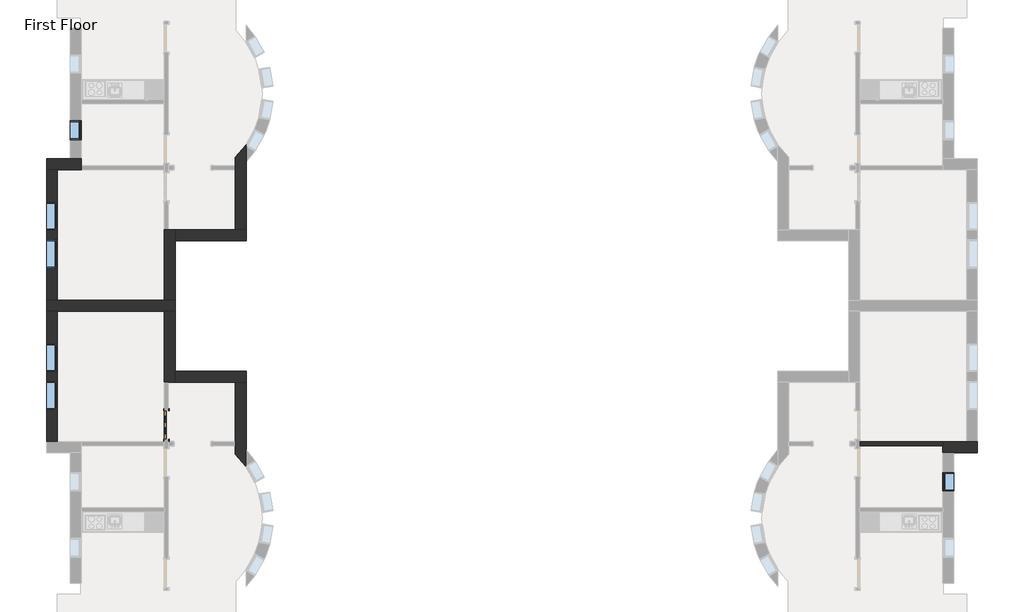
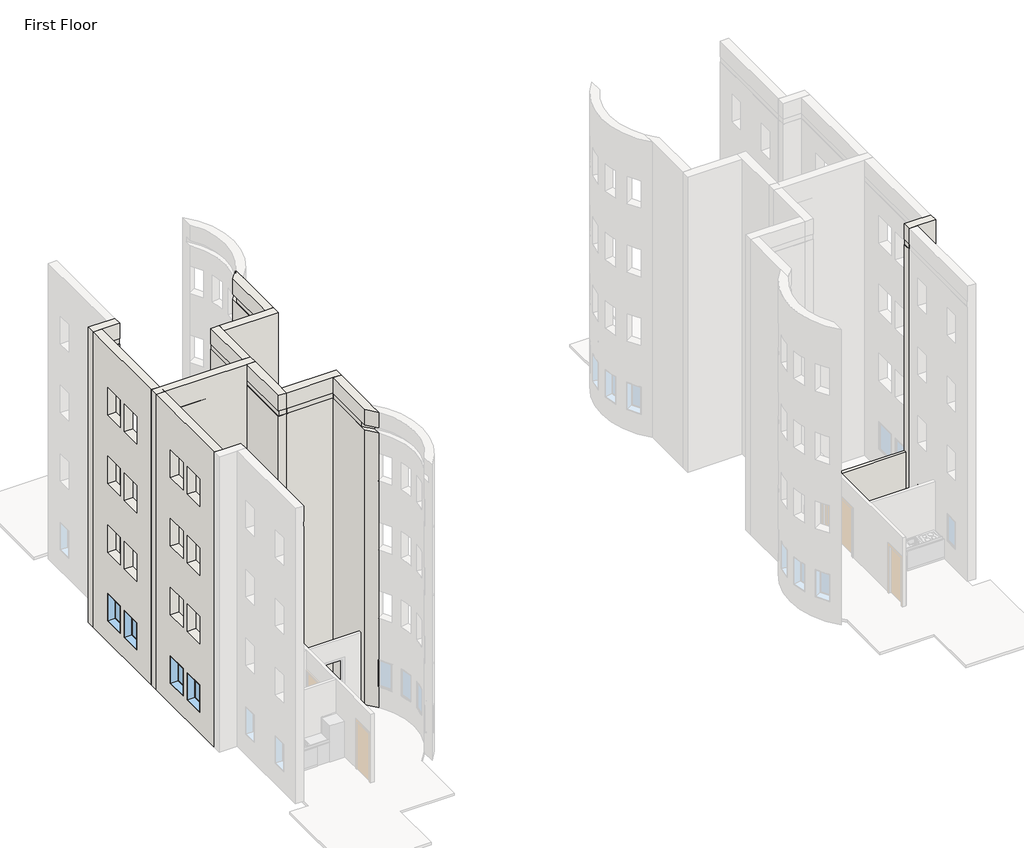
# One storey, part 8 of 23: 13 walls, 6 windows, 1 door.
"""IFC4 building model written with IfcOpenShell, lengths in millimetres."""

from ifc_helpers import new_model, si_unit, frame, origin, origin_with_axes, place, context, project, spatial, polyline, circle_curve, outline, extrude, faceted_brep, transform, mapped, element, save
from ifc_brep_helpers import plane_surface, revolved_surface, advanced_brep
from components import door_829da954, window_60baf983, window_15c49d37, window_0e2fc6ce

model = new_model("IFC4")

# Units and contexts
model_context = context("Model", 3, world=origin())
ifc_project = project(units=[si_unit("LENGTHUNIT", "METRE", prefix="MILLI")], contexts=[model_context])

# Site, building, storey
site = spatial("IfcSite", under=ifc_project)
building = spatial("IfcBuilding", under=site)
storey = spatial("IfcBuildingStorey", under=building, Name="First Floor", Elevation=0.0)

# Door
placement = place(None, origin())
door_shape = door_829da954(model_context)
element("IfcDoor", 1, ObjectType="Single-Decorative 2 : 36\" x 84\"", at=placement, inside=storey, context=model_context, shape_type="MappedRepresentation", body=[
    mapped(door_shape, transform((-26223.8839563, -15653.8558133, 0.0), x_axis=(0.0, -1.0, 0.0), y_axis=(1.0, 0.0, 0.0), z_axis=(0.0, 0.0, 1.0))),
])

# Walls
element("IfcWall", 2, ObjectType="Exterior - Brick on Mtl. Stud", at=placement, inside=storey, context=model_context, shape_type="Brep", body=[
    faceted_brep([(-30097.3839563, -11980.3808133, 0.0), (-29744.9589563, -11980.3808133, 0.0), (-26287.3839563, -11980.3808133, 0.0), (-25934.9589563, -11980.3808133, 0.0), (-25934.9589563, -11980.3808133, 13106.4), (-26287.3839563, -11980.3808133, 13106.4), (-29744.9589563, -11980.3808133, 13106.4), (-30097.3839563, -11980.3808133, 13106.4), (-25934.9589563, -11627.9558133, 0.0), (-26287.3839563, -11627.9558133, 0.0), (-29744.9589563, -11627.9558133, 0.0), (-30097.3839563, -11627.9558133, 0.0), (-30097.3839563, -11627.9558133, 13106.4), (-29744.9589563, -11627.9558133, 13106.4), (-26287.3839563, -11627.9558133, 13106.4), (-25934.9589563, -11627.9558133, 13106.4), (-29757.6589563, -11627.9558133, 12192.0), (-29744.9589563, -11627.9558133, 12192.0), (-26287.3839563, -11627.9558133, 12192.0), (-26274.6839563, -11627.9558133, 12192.0), (-26274.6839563, -11627.9558133, 12420.6), (-26287.3839563, -11627.9558133, 12420.6), (-29744.9589563, -11627.9558133, 12420.6), (-29757.6589563, -11627.9558133, 12420.6), (-29757.6589563, -11640.6558133, 12192.0), (-26274.6839563, -11640.6558133, 12192.0), (-26274.6839563, -11640.6558133, 12420.6), (-29757.6589563, -11640.6558133, 12420.6)], [[[0, 1, 2, 3, 4, 5, 6, 7]], [[8, 9, 10, 11, 12, 13, 14, 15], [16, 17, 18, 19, 20, 21, 22, 23]], [[3, 2, 1, 0, 11, 10, 9, 8]], [[7, 6, 5, 4, 15, 14, 13, 12]], [[4, 3, 8, 15]], [[0, 7, 12, 11]], [[24, 25, 19, 18, 17, 16]], [[26, 27, 23, 22, 21, 20]], [[25, 24, 27, 26]], [[27, 24, 16, 23]], [[25, 26, 20, 19]]]),
])
element("IfcWall", 3, ObjectType="Exterior - Brick on Mtl. Stud", at=placement, inside=storey, context=model_context, shape_type="Brep", body=[
    faceted_brep([(-25934.9589563, -11627.9558133, 0.0), (-25934.9589563, -9694.3808133, 0.0), (-25934.9589563, -9341.9558133, 0.0), (-25934.9589563, -9341.9558133, 12192.0), (-25934.9589563, -9354.6558133, 12192.0), (-25934.9589563, -9354.6558133, 12420.6), (-25934.9589563, -9341.9558133, 12420.6), (-25934.9589563, -9341.9558133, 13106.4), (-25934.9589563, -9694.3808133, 13106.4), (-25934.9589563, -11627.9558133, 13106.4), (-26287.3839563, -9341.9558133, 0.0), (-26287.3839563, -11627.9558133, 0.0), (-26287.3839563, -11627.9558133, 12192.0), (-26287.3839563, -9341.9558133, 12192.0), (-26287.3839563, -9341.9558133, 9144.0), (-26287.3839563, -9341.9558133, 6096.0), (-26287.3839563, -9341.9558133, 3048.0), (-26287.3839563, -11627.9558133, 13106.4), (-26287.3839563, -9341.9558133, 13106.4), (-26287.3839563, -9341.9558133, 12420.6), (-26287.3839563, -11627.9558133, 12420.6), (-26160.3839563, -9341.9558133, 0.0), (-26160.3839563, -9341.9558133, 12192.0), (-26274.6839563, -11627.9558133, 12420.6), (-26274.6839563, -11627.9558133, 12192.0), (-26274.6839563, -9354.6558133, 12192.0), (-26274.6839563, -9354.6558133, 12420.6)], [[[0, 1, 2, 3, 4, 5, 6, 7, 8, 9]], [[10, 11, 12, 13, 14, 15, 16]], [[17, 18, 19, 20]], [[2, 1, 0, 11, 10, 21]], [[9, 8, 7, 18, 17]], [[2, 21, 10, 16, 15, 14, 13, 22, 3]], [[18, 7, 6, 19]], [[0, 9, 17, 20, 23, 24, 12, 11]], [[24, 25, 4, 3, 22, 13, 12]], [[5, 26, 23, 20, 19, 6]], [[25, 26, 5, 4]], [[26, 25, 24, 23]]]),
])
element("IfcWall", 4, ObjectType="Exterior - Brick on Mtl. Stud", at=placement, inside=storey, context=model_context, shape_type="Brep", body=[
    faceted_brep([(-25934.9589563, -9694.3808133, 0.0), (-23648.9589563, -9694.3808133, 0.0), (-23648.9589563, -9694.3808133, 13106.4), (-25934.9589563, -9694.3808133, 13106.4), (-23648.9589563, -9341.9558133, 0.0), (-24001.3839563, -9341.9558133, 0.0), (-25934.9589563, -9341.9558133, 0.0), (-25934.9589563, -9341.9558133, 12192.0), (-24001.3839563, -9341.9558133, 12192.0), (-23988.6839563, -9341.9558133, 12192.0), (-23988.6839563, -9341.9558133, 12420.6), (-24001.3839563, -9341.9558133, 12420.6), (-25934.9589563, -9341.9558133, 12420.6), (-25934.9589563, -9341.9558133, 13106.4), (-24001.3839563, -9341.9558133, 13106.4), (-23648.9589563, -9341.9558133, 13106.4), (-25934.9589563, -9354.6558133, 12420.6), (-25934.9589563, -9354.6558133, 12192.0), (-23988.6839563, -9354.6558133, 12192.0), (-23988.6839563, -9354.6558133, 12420.6)], [[[0, 1, 2, 3]], [[4, 5, 6, 7, 8, 9, 10, 11, 12, 13, 14, 15]], [[1, 0, 6, 5, 4]], [[3, 2, 15, 14, 13]], [[2, 1, 4, 15]], [[0, 3, 13, 12, 16, 17, 7, 6]], [[17, 18, 9, 8, 7]], [[10, 19, 16, 12, 11]], [[18, 19, 10, 9]], [[19, 18, 17, 16]]]),
])
element("IfcWall", 5, ObjectType="Exterior - Brick on Mtl. Stud", at=placement, inside=storey, context=model_context, shape_type="AdvancedBrep", body=[
    advanced_brep(
    [(-23648.9589563, -9341.9558133, 0.0), (-23648.9589563, -7150.5535473, 0.0), (-23648.9589563, -6592.6589631, 0.0), (-23648.9589563, -6592.6589631, 914.4), (-23648.9589563, -6641.947211, 914.4), (-23648.9589563, -6641.947211, 2133.6), (-23648.9589563, -6592.6589631, 2133.6), (-23648.9589563, -6592.6589631, 3962.4), (-23648.9589563, -6641.947211, 3962.4), (-23648.9589563, -6641.947211, 5181.6), (-23648.9589563, -6592.6589631, 5181.6), (-23648.9589563, -6592.6589631, 7010.4), (-23648.9589563, -6641.947211, 7010.4), (-23648.9589563, -6641.947211, 8229.6), (-23648.9589563, -6592.6589631, 8229.6), (-23648.9589563, -6592.6589631, 10058.4), (-23648.9589563, -6641.947211, 10058.4), (-23648.9589563, -6641.947211, 11277.6), (-23648.9589563, -6592.6589631, 11277.6), (-23648.9589563, -6592.6589631, 12192.0), (-23648.9589563, -6901.1458841, 12192.0), (-23648.9589563, -6901.1458841, 12420.6), (-23648.9589563, -6592.6589631, 12420.6), (-23648.9589563, -6592.6589631, 13106.4), (-23648.9589563, -7150.5535473, 13106.4), (-23648.9589563, -9341.9558133, 13106.4), (-24001.3839563, -7006.552661, 0.0), (-24001.3839563, -7281.3808133, 0.0), (-24001.3839563, -7408.3808133, 0.0), (-24001.3839563, -9341.9558133, 0.0), (-24001.3839563, -9341.9558133, 12192.0), (-24001.3839563, -7408.3808133, 12192.0), (-24001.3839563, -7281.3808133, 12192.0), (-24001.3839563, -7006.552661, 12192.0), (-24001.3839563, -9341.9558133, 13106.4), (-24001.3839563, -7006.552661, 13106.4), (-24001.3839563, -7006.552661, 12420.6), (-24001.3839563, -9341.9558133, 12420.6), (-23654.515008, -6600.5704649, 11277.6), (-23654.515008, -6600.5704649, 10058.4), (-23654.515008, -6600.5704649, 8229.6), (-23654.515008, -6600.5704649, 7010.4), (-23654.515008, -6600.5704649, 5181.6), (-23654.515008, -6600.5704649, 3962.4), (-23654.515008, -6600.5704649, 2133.6), (-23654.515008, -6600.5704649, 914.4), (-23988.6839563, -9341.9558133, 12420.6), (-23988.6839563, -9341.9558133, 12192.0), (-23670.9721676, -6629.3664793, 2133.6), (-23670.9721676, -6629.3664793, 914.4), (-23670.9721676, -6629.3664793, 11277.6), (-23670.9721676, -6629.3664793, 10058.4), (-23670.9721676, -6629.3664793, 5181.6), (-23670.9721676, -6629.3664793, 3962.4), (-23670.9721676, -6629.3664793, 8229.6), (-23670.9721676, -6629.3664793, 7010.4), (-23988.6839563, -7249.4736866, 12192.0), (-23988.6839563, -7249.4736866, 12420.6)],
    [
        (0, 1),
        (1, 2),
        (2, 3),
        (3, 4),
        (4, 5),
        (5, 6),
        (6, 7),
        (7, 8),
        (8, 9),
        (9, 10),
        (10, 11),
        (11, 12),
        (12, 13),
        (13, 14),
        (14, 15),
        (15, 16),
        (16, 17),
        (17, 18),
        (18, 19),
        (19, 20),
        (20, 21),
        (21, 22),
        (22, 23),
        (23, 24),
        (24, 25),
        (25, 0),
        (26, 27),
        (27, 28),
        (28, 29),
        (29, 30),
        (30, 31),
        (31, 32),
        (32, 33),
        (33, 26),
        (34, 35),
        (35, 36),
        (36, 37),
        (37, 34),
        (0, 29),
        (26, 2, circle_curve(frame((-26001.8788413, -4946.1683133, 0.0), z_axis=(0.0, 0.0, 1.0), x_axis=(0.0, 1.0, 0.0)), 2871.7875)),
        (23, 35, circle_curve(frame((-26001.8788413, -4946.1683133, 13106.4), z_axis=(0.0, 0.0, -1.0), x_axis=(0.0, 1.0, 0.0)), 2871.7875)),
        (34, 25),
        (33, 19, circle_curve(frame((-26001.8788413, -4946.1683133, 12192.0), z_axis=(0.0, 0.0, 1.0), x_axis=(0.0, 1.0, 0.0)), 2871.7875)),
        (18, 38, circle_curve(frame((-26001.8788413, -4946.1683133, 11277.6), z_axis=(0.0, 0.0, -1.0), x_axis=(0.0, 1.0, 0.0)), 2871.7875)),
        (38, 39),
        (39, 15, circle_curve(frame((-26001.8788413, -4946.1683133, 10058.4), z_axis=(0.0, 0.0, 1.0), x_axis=(0.0, 1.0, 0.0)), 2871.7875)),
        (14, 40, circle_curve(frame((-26001.8788413, -4946.1683133, 8229.6), z_axis=(0.0, 0.0, -1.0), x_axis=(0.0, 1.0, 0.0)), 2871.7875)),
        (40, 41),
        (41, 11, circle_curve(frame((-26001.8788413, -4946.1683133, 7010.4), z_axis=(0.0, 0.0, 1.0), x_axis=(0.0, 1.0, 0.0)), 2871.7875)),
        (10, 42, circle_curve(frame((-26001.8788413, -4946.1683133, 5181.6), z_axis=(0.0, 0.0, -1.0), x_axis=(0.0, 1.0, 0.0)), 2871.7875)),
        (42, 43),
        (43, 7, circle_curve(frame((-26001.8788413, -4946.1683133, 3962.4), z_axis=(0.0, 0.0, 1.0), x_axis=(0.0, 1.0, 0.0)), 2871.7875)),
        (6, 44, circle_curve(frame((-26001.8788413, -4946.1683133, 2133.6), z_axis=(0.0, 0.0, -1.0), x_axis=(0.0, 1.0, 0.0)), 2871.7875)),
        (44, 45),
        (45, 3, circle_curve(frame((-26001.8788413, -4946.1683133, 914.4), z_axis=(0.0, 0.0, 1.0), x_axis=(0.0, 1.0, 0.0)), 2871.7875)),
        (22, 36, circle_curve(frame((-26001.8788413, -4946.1683133, 12420.6), z_axis=(0.0, 0.0, -1.0), x_axis=(0.0, 1.0, 0.0)), 2871.7875)),
        (37, 46),
        (46, 47),
        (47, 30),
        (48, 49),
        (49, 45),
        (44, 48),
        (49, 4),
        (48, 5),
        (50, 51),
        (51, 39),
        (38, 50),
        (51, 16),
        (50, 17),
        (52, 53),
        (53, 43),
        (42, 52),
        (53, 8),
        (52, 9),
        (54, 55),
        (55, 41),
        (40, 54),
        (55, 12),
        (54, 13),
        (47, 56),
        (56, 20, circle_curve(frame((-26001.8788413, -4946.1683133, 12192.0), z_axis=(0.0, 0.0, 1.0), x_axis=(0.0, -1.0, 0.0)), 3059.1125)),
        (21, 57, circle_curve(frame((-26001.8788413, -4946.1683133, 12420.6), z_axis=(0.0, 0.0, -1.0), x_axis=(0.0, -1.0, 0.0)), 3059.1125)),
        (57, 46),
        (56, 57),
    ],
    [
        plane_surface(frame((-23648.9589563, -9518.1683133, 0.0), z_axis=(1.0, 0.0, 0.0), x_axis=(0.0, 1.0, 0.0))),
        plane_surface(frame((-24001.3839563, -9518.1683133, 0.0), z_axis=(-1.0, 0.0, 0.0), x_axis=(0.0, -1.0, 0.0))),
        plane_surface(frame((-23648.9589563, -9518.1683133, 0.0), z_axis=(0.0, 0.0, -1.0), x_axis=(-1.0, 0.0, 0.0))),
        plane_surface(frame((-23648.9589563, -7079.7683133, 13106.4), z_axis=(0.0, 0.0, 1.0), x_axis=(-1.0, 0.0, 0.0))),
        revolved_surface(polyline([(-26001.8788413, -2074.3808132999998, 0.0), (-26001.8788413, -2074.3808132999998, 12192.0)]), (-26001.8788413, -4946.1683133, 0.0), (0.0, 0.0, -1.0)),
        revolved_surface(polyline([(-26001.8788413, -2074.3808132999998, 12420.6), (-26001.8788413, -2074.3808132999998, 13106.4)]), (-26001.8788413, -4946.1683133, 0.0), (0.0, 0.0, -1.0)),
        plane_surface(frame((-26111.1714563, -9341.9558133, 0.0), z_axis=(0.0, -1.0, 0.0), x_axis=(-1.0, 0.0, 0.0))),
        plane_surface(frame((-23368.4940834, -6100.1036253, 2133.6), z_axis=(0.8682133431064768, -0.4961910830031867, 0.0), x_axis=(0.0, 0.0, -1.0))),
        plane_surface(frame((-23368.4940834, -6100.1036253, 914.4), z_axis=(0.0, 0.0, 1.0), x_axis=(0.8682133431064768, -0.49619108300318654, 0.0))),
        plane_surface(frame((-23670.9721676, -6629.3664793, 914.4), z_axis=(0.49619108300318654, 0.8682133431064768, 0.0), x_axis=(0.8682133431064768, -0.49619108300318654, 0.0))),
        plane_surface(frame((-23670.9721676, -6629.3664793, 2133.6), z_axis=(0.0, 0.0, -1.0), x_axis=(0.8682133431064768, -0.49619108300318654, 0.0))),
        plane_surface(frame((-23368.4940834, -6100.1036253, 11277.6), z_axis=(0.8682133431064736, -0.4961910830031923, 0.0), x_axis=(0.0, 0.0, -1.0))),
        plane_surface(frame((-23368.4940834, -6100.1036253, 10058.4), z_axis=(0.0, 0.0, 1.0000000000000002), x_axis=(0.8682133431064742, -0.49619108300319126, 0.0))),
        plane_surface(frame((-23670.9721676, -6629.3664793, 10058.4), z_axis=(0.49619108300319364, 0.8682133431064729, 0.0), x_axis=(0.8682133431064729, -0.49619108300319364, 0.0))),
        plane_surface(frame((-23670.9721676, -6629.3664793, 11277.6), z_axis=(0.0, 0.0, -1.0), x_axis=(0.8682133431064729, -0.49619108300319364, 0.0))),
        plane_surface(frame((-23368.4940834, -6100.1036253, 5181.6), z_axis=(0.8682133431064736, -0.4961910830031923, 0.0), x_axis=(0.0, 0.0, -1.0))),
        plane_surface(frame((-23368.4940834, -6100.1036253, 3962.4), z_axis=(0.0, 0.0, 1.0000000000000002), x_axis=(0.8682133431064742, -0.49619108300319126, 0.0))),
        plane_surface(frame((-23670.9721676, -6629.3664793, 3962.4), z_axis=(0.49619108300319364, 0.8682133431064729, 0.0), x_axis=(0.8682133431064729, -0.49619108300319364, 0.0))),
        plane_surface(frame((-23670.9721676, -6629.3664793, 5181.6), z_axis=(0.0, 0.0, -1.0), x_axis=(0.8682133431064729, -0.49619108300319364, 0.0))),
        plane_surface(frame((-23368.4940834, -6100.1036253, 8229.6), z_axis=(0.8682133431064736, -0.4961910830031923, 0.0), x_axis=(0.0, 0.0, -1.0))),
        plane_surface(frame((-23368.4940834, -6100.1036253, 7010.4), z_axis=(0.0, 0.0, 1.0000000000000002), x_axis=(0.8682133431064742, -0.49619108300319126, 0.0))),
        plane_surface(frame((-23670.9721676, -6629.3664793, 7010.4), z_axis=(0.49619108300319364, 0.8682133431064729, 0.0), x_axis=(0.8682133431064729, -0.49619108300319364, 0.0))),
        plane_surface(frame((-23670.9721676, -6629.3664793, 8229.6), z_axis=(0.0, 0.0, -1.0), x_axis=(0.8682133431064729, -0.49619108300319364, 0.0))),
        plane_surface(frame((-29757.6589563, -11640.6558133, 12192.0), z_axis=(0.0, 0.0, 1.0), x_axis=(1.0, 0.0, 0.0))),
        plane_surface(frame((-29757.6589563, -11640.6558133, 12420.6), z_axis=(0.0, 0.0, -1.0), x_axis=(1.0, 0.0, 0.0))),
        revolved_surface(polyline([(-26001.8788413, -8005.2808133, 12420.6), (-26001.8788413, -8005.2808133, 12192.0)]), (-26001.8788413, -4946.1683133, 12192.0), (0.0, 0.0, 1.0)),
        plane_surface(frame((-23988.6839563, -9354.6558133, 12192.0), z_axis=(-1.0, 0.0, 0.0), x_axis=(0.0, 1.0, 0.0))),
    ],
    [
        (0, [[1, 2, 3, 4, 5, 6, 7, 8, 9, 10, 11, 12, 13, 14, 15, 16, 17, 18, 19, 20, 21, 22, 23, 24, 25, 26]]),
        (1, [[27, 28, 29, 30, 31, 32, 33, 34]]),
        (1, [[35, 36, 37, 38]]),
        (2, [[-2, -1, 39, -29, -28, -27, 40]]),
        (3, [[-25, -24, 41, -35, 42]]),
        (4, [[-40, -34, 43, -19, 44, 45, 46, -15, 47, 48, 49, -11, 50, 51, 52, -7, 53, 54, 55, -3]]),
        (5, [[-41, -23, 56, -36]]),
        (6, [[-26, -42, -38, 57, 58, 59, -30, -39]]),
        (7, [[60, 61, -54, 62]]),
        (8, [[63, -4, -55, -61]]),
        (9, [[-60, 64, -5, -63]]),
        (10, [[-64, -62, -53, -6]]),
        (11, [[65, 66, -45, 67]]),
        (12, [[68, -16, -46, -66]]),
        (13, [[-65, 69, -17, -68]]),
        (14, [[-69, -67, -44, -18]]),
        (15, [[70, 71, -51, 72]]),
        (16, [[73, -8, -52, -71]]),
        (17, [[-70, 74, -9, -73]]),
        (18, [[-74, -72, -50, -10]]),
        (19, [[75, 76, -48, 77]]),
        (20, [[78, -12, -49, -76]]),
        (21, [[-75, 79, -13, -78]]),
        (22, [[-79, -77, -47, -14]]),
        (23, [[80, 81, -20, -43, -33, -32, -31, -59]]),
        (24, [[82, 83, -57, -37, -56, -22]]),
        (25, [[84, -82, -21, -81]]),
        (26, [[-84, -80, -58, -83]]),
    ],
),
])
element("IfcWall", 6, ObjectType="Exterior - Brick on Mtl. Stud", at=placement, inside=storey, context=model_context, shape_type="Brep", body=[
    faceted_brep([(-29744.9589563, -11627.9558133, 0.0), (-29744.9589563, -7408.3808133, 0.0), (-29744.9589563, -7408.3808133, 12192.0), (-29744.9589563, -11627.9558133, 12192.0), (-29744.9589563, -9365.7683133, 7010.4), (-29744.9589563, -9365.7683133, 8229.6), (-29744.9589563, -8451.3683133, 8229.6), (-29744.9589563, -8451.3683133, 7010.4), (-29744.9589563, -10584.9683133, 7010.4), (-29744.9589563, -10584.9683133, 8229.6), (-29744.9589563, -9670.5683133, 8229.6), (-29744.9589563, -9670.5683133, 7010.4), (-29744.9589563, -9365.7683133, 3962.4), (-29744.9589563, -9365.7683133, 5181.6), (-29744.9589563, -8451.3683133, 5181.6), (-29744.9589563, -8451.3683133, 3962.4), (-29744.9589563, -10584.9683133, 3962.4), (-29744.9589563, -10584.9683133, 5181.6), (-29744.9589563, -9670.5683133, 5181.6), (-29744.9589563, -9670.5683133, 3962.4), (-29744.9589563, -9365.7683133, 10058.4), (-29744.9589563, -9365.7683133, 11277.6), (-29744.9589563, -8451.3683133, 11277.6), (-29744.9589563, -8451.3683133, 10058.4), (-29744.9589563, -10584.9683133, 10058.4), (-29744.9589563, -10584.9683133, 11277.6), (-29744.9589563, -9670.5683133, 11277.6), (-29744.9589563, -9670.5683133, 10058.4), (-29744.9589563, -9365.7683133, 914.4), (-29744.9589563, -9365.7683133, 2133.6), (-29744.9589563, -8451.3683133, 2133.6), (-29744.9589563, -8451.3683133, 914.4), (-29744.9589563, -10584.9683133, 914.4), (-29744.9589563, -10584.9683133, 2133.6), (-29744.9589563, -9670.5683133, 2133.6), (-29744.9589563, -9670.5683133, 914.4), (-29744.9589563, -7408.3808133, 13106.4), (-29744.9589563, -11627.9558133, 13106.4), (-29744.9589563, -11627.9558133, 12420.6), (-29744.9589563, -7408.3808133, 12420.6), (-30097.3839563, -7408.3808133, 0.0), (-30097.3839563, -11627.9558133, 0.0), (-30097.3839563, -11627.9558133, 13106.4), (-30097.3839563, -7408.3808133, 13106.4), (-30097.3839563, -9365.7683133, 8229.6), (-30097.3839563, -9365.7683133, 7010.4), (-30097.3839563, -8451.3683133, 7010.4), (-30097.3839563, -8451.3683133, 8229.6), (-30097.3839563, -10584.9683133, 8229.6), (-30097.3839563, -10584.9683133, 7010.4), (-30097.3839563, -9670.5683133, 7010.4), (-30097.3839563, -9670.5683133, 8229.6), (-30097.3839563, -9365.7683133, 5181.6), (-30097.3839563, -9365.7683133, 3962.4), (-30097.3839563, -8451.3683133, 3962.4), (-30097.3839563, -8451.3683133, 5181.6), (-30097.3839563, -10584.9683133, 5181.6), (-30097.3839563, -10584.9683133, 3962.4), (-30097.3839563, -9670.5683133, 3962.4), (-30097.3839563, -9670.5683133, 5181.6), (-30097.3839563, -9365.7683133, 11277.6), (-30097.3839563, -9365.7683133, 10058.4), (-30097.3839563, -8451.3683133, 10058.4), (-30097.3839563, -8451.3683133, 11277.6), (-30097.3839563, -10584.9683133, 11277.6), (-30097.3839563, -10584.9683133, 10058.4), (-30097.3839563, -9670.5683133, 10058.4), (-30097.3839563, -9670.5683133, 11277.6), (-30097.3839563, -9365.7683133, 2133.6), (-30097.3839563, -9365.7683133, 914.4), (-30097.3839563, -8451.3683133, 914.4), (-30097.3839563, -8451.3683133, 2133.6), (-30097.3839563, -10584.9683133, 2133.6), (-30097.3839563, -10584.9683133, 914.4), (-30097.3839563, -9670.5683133, 914.4), (-30097.3839563, -9670.5683133, 2133.6), (-29757.6589563, -11627.9558133, 12192.0), (-29757.6589563, -11627.9558133, 12420.6), (-29757.6589563, -7408.3808133, 12420.6), (-29757.6589563, -7408.3808133, 12192.0)], [[[0, 1, 2, 3], [4, 5, 6, 7], [8, 9, 10, 11], [12, 13, 14, 15], [16, 17, 18, 19], [20, 21, 22, 23], [24, 25, 26, 27], [28, 29, 30, 31], [32, 33, 34, 35]], [[36, 37, 38, 39]], [[40, 41, 42, 43], [44, 45, 46, 47], [48, 49, 50, 51], [52, 53, 54, 55], [56, 57, 58, 59], [60, 61, 62, 63], [64, 65, 66, 67], [68, 69, 70, 71], [72, 73, 74, 75]], [[1, 0, 41, 40]], [[37, 36, 43, 42]], [[37, 42, 41, 0, 3, 76, 77, 38]], [[1, 40, 43, 36, 39, 78, 79, 2]], [[45, 44, 5, 4]], [[46, 45, 4, 7]], [[47, 46, 7, 6]], [[44, 47, 6, 5]], [[49, 48, 9, 8]], [[50, 49, 8, 11]], [[51, 50, 11, 10]], [[48, 51, 10, 9]], [[53, 52, 13, 12]], [[54, 53, 12, 15]], [[55, 54, 15, 14]], [[52, 55, 14, 13]], [[57, 56, 17, 16]], [[58, 57, 16, 19]], [[59, 58, 19, 18]], [[56, 59, 18, 17]], [[61, 60, 21, 20]], [[62, 61, 20, 23]], [[63, 62, 23, 22]], [[60, 63, 22, 21]], [[65, 64, 25, 24]], [[66, 65, 24, 27]], [[67, 66, 27, 26]], [[64, 67, 26, 25]], [[69, 68, 29, 28]], [[70, 69, 28, 31]], [[71, 70, 31, 30]], [[68, 71, 30, 29]], [[73, 72, 33, 32]], [[74, 73, 32, 35]], [[75, 74, 35, 34]], [[72, 75, 34, 33]], [[79, 76, 3, 2]], [[77, 78, 39, 38]], [[76, 79, 78, 77]]]),
])
element("IfcWall", 7, ObjectType="Exterior - Brick on Mtl. Stud", at=placement, inside=storey, context=model_context, shape_type="Brep", body=[
    faceted_brep([(-30097.3839563, -7408.3808133, 0.0), (-29744.9589563, -7408.3808133, 0.0), (-28982.9589563, -7408.3808133, 0.0), (-28982.9589563, -7408.3808133, 3048.0), (-28982.9589563, -7408.3808133, 6096.0), (-28982.9589563, -7408.3808133, 9144.0), (-28982.9589563, -7408.3808133, 12192.0), (-29744.9589563, -7408.3808133, 12192.0), (-29757.6589563, -7408.3808133, 12192.0), (-29757.6589563, -7408.3808133, 12420.6), (-29744.9589563, -7408.3808133, 12420.6), (-28982.9589563, -7408.3808133, 12420.6), (-28982.9589563, -7408.3808133, 13106.4), (-29744.9589563, -7408.3808133, 13106.4), (-30097.3839563, -7408.3808133, 13106.4), (-28982.9589563, -7055.9558133, 0.0), (-29335.3839563, -7055.9558133, 0.0), (-30097.3839563, -7055.9558133, 0.0), (-30097.3839563, -7055.9558133, 13106.4), (-29335.3839563, -7055.9558133, 13106.4), (-28982.9589563, -7055.9558133, 13106.4), (-28982.9589563, -7055.9558133, 12420.6), (-28995.6589563, -7055.9558133, 12420.6), (-28995.6589563, -7055.9558133, 12192.0), (-28982.9589563, -7055.9558133, 12192.0), (-28982.9589563, -7281.3808133, 0.0), (-28982.9589563, -7281.3808133, 12192.0), (-28995.6589563, -7395.6808133, 12192.0), (-29757.6589563, -7395.6808133, 12192.0), (-29757.6589563, -7395.6808133, 12420.6), (-28995.6589563, -7395.6808133, 12420.6)], [[[0, 1, 2, 3, 4, 5, 6, 7, 8, 9, 10, 11, 12, 13, 14]], [[15, 16, 17, 18, 19, 20, 21, 22, 23, 24]], [[2, 1, 0, 17, 16, 15, 25]], [[14, 13, 12, 20, 19, 18]], [[0, 14, 18, 17]], [[2, 25, 15, 24, 26, 6, 5, 4, 3]], [[20, 12, 11, 21]], [[27, 28, 8, 7, 6, 26, 24, 23]], [[29, 30, 22, 21, 11, 10, 9]], [[28, 29, 9, 8]], [[28, 27, 30, 29]], [[30, 27, 23, 22]]]),
])
element("IfcWall", 8, ObjectType="Exterior - Brick on Mtl. Stud", at=placement, inside=storey, context=model_context, shape_type="Brep", body=[
    faceted_brep([(-26.9589563, -16199.9558133, 0.0), (-379.3839563, -16199.9558133, 0.0), (-1141.3839563, -16199.9558133, 0.0), (-1141.3839563, -16199.9558133, 3048.0), (-1141.3839563, -16199.9558133, 6096.0), (-1141.3839563, -16199.9558133, 9144.0), (-1141.3839563, -16199.9558133, 12192.0), (-379.3839563, -16199.9558133, 12192.0), (-366.6839563, -16199.9558133, 12192.0), (-366.6839563, -16199.9558133, 12420.6), (-379.3839563, -16199.9558133, 12420.6), (-1141.3839563, -16199.9558133, 12420.6), (-1141.3839563, -16199.9558133, 13106.4), (-379.3839563, -16199.9558133, 13106.4), (-26.9589563, -16199.9558133, 13106.4), (-1141.3839563, -16552.3808133, 0.0), (-788.9589563, -16552.3808133, 0.0), (-26.9589563, -16552.3808133, 0.0), (-26.9589563, -16552.3808133, 13106.4), (-788.9589563, -16552.3808133, 13106.4), (-1141.3839563, -16552.3808133, 13106.4), (-1141.3839563, -16552.3808133, 12420.6), (-1128.6839563, -16552.3808133, 12420.6), (-1128.6839563, -16552.3808133, 12192.0), (-1141.3839563, -16552.3808133, 12192.0), (-1141.3839563, -16326.9558133, 0.0), (-1141.3839563, -16326.9558133, 12192.0), (-1128.6839563, -16212.6558133, 12192.0), (-366.6839563, -16212.6558133, 12192.0), (-366.6839563, -16212.6558133, 12420.6), (-1128.6839563, -16212.6558133, 12420.6)], [[[0, 1, 2, 3, 4, 5, 6, 7, 8, 9, 10, 11, 12, 13, 14]], [[15, 16, 17, 18, 19, 20, 21, 22, 23, 24]], [[2, 1, 0, 17, 16, 15, 25]], [[14, 13, 12, 20, 19, 18]], [[0, 14, 18, 17]], [[2, 25, 15, 24, 26, 6, 5, 4, 3]], [[20, 12, 11, 21]], [[27, 28, 8, 7, 6, 26, 24, 23]], [[29, 30, 22, 21, 11, 10, 9]], [[28, 29, 9, 8]], [[28, 27, 30, 29]], [[30, 27, 23, 22]]]),
])
element("IfcWall", 9, ObjectType="Exterior - Brick on Mtl. Stud", at=placement, inside=storey, context=model_context, shape_type="SweptSolid", body=[
    extrude(outline(polyline([(-11980.3808133, 13106.4), (-11627.9558133, 13106.4), (-11627.9558133, 0.0), (-11980.3808133, 0.0), (-11980.3808133, 12192.0), (-11967.6808133, 12192.0), (-11967.6808133, 12420.6), (-11980.3808133, 12420.6), (-11980.3808133, 13106.4)])), frame((-29744.9589563, 0.0, 0.0), z_axis=(1.0, 0.0, 0.0), x_axis=(0.0, 1.0, 0.0)), (0.0, 0.0, 1.0), 3457.575),
])
element("IfcWall", 10, ObjectType="Exterior - Brick on Mtl. Stud", at=placement, inside=storey, context=model_context, shape_type="Brep", body=[
    faceted_brep([(-26287.3839563, -11980.3808133, 0.0), (-26287.3839563, -14266.3808133, 0.0), (-26287.3839563, -14266.3808133, 3048.0), (-26287.3839563, -14266.3808133, 6096.0), (-26287.3839563, -14266.3808133, 9144.0), (-26287.3839563, -14266.3808133, 12192.0), (-26287.3839563, -11980.3808133, 12192.0), (-26287.3839563, -14266.3808133, 13106.4), (-26287.3839563, -11980.3808133, 13106.4), (-26287.3839563, -11980.3808133, 12420.6), (-26287.3839563, -14266.3808133, 12420.6), (-25934.9589563, -14266.3808133, 0.0), (-25934.9589563, -13913.9558133, 0.0), (-25934.9589563, -11980.3808133, 0.0), (-25934.9589563, -11980.3808133, 13106.4), (-25934.9589563, -13913.9558133, 13106.4), (-25934.9589563, -14266.3808133, 13106.4), (-25934.9589563, -14266.3808133, 12420.6), (-25934.9589563, -14253.6808133, 12420.6), (-25934.9589563, -14253.6808133, 12192.0), (-25934.9589563, -14266.3808133, 12192.0), (-26160.3839563, -14266.3808133, 0.0), (-26160.3839563, -14266.3808133, 12192.0), (-26274.6839563, -11980.3808133, 12192.0), (-26274.6839563, -11980.3808133, 12420.6), (-26274.6839563, -14253.6808133, 12192.0), (-26274.6839563, -14253.6808133, 12420.6)], [[[0, 1, 2, 3, 4, 5, 6]], [[7, 8, 9, 10]], [[11, 12, 13, 14, 15, 16, 17, 18, 19, 20]], [[1, 0, 13, 12, 11, 21]], [[8, 7, 16, 15, 14]], [[1, 21, 11, 20, 22, 5, 4, 3, 2]], [[16, 7, 10, 17]], [[8, 14, 13, 0, 6, 23, 24, 9]], [[19, 25, 23, 6, 5, 22, 20]], [[24, 26, 18, 17, 10, 9]], [[26, 25, 19, 18]], [[25, 26, 24, 23]]]),
])
element("IfcWall", 11, ObjectType="Exterior - Brick on Mtl. Stud", at=placement, inside=storey, context=model_context, shape_type="Brep", body=[
    faceted_brep([(-25934.9589563, -14266.3808133, 0.0), (-24001.3839563, -14266.3808133, 0.0), (-23648.9589563, -14266.3808133, 0.0), (-23648.9589563, -14266.3808133, 13106.4), (-24001.3839563, -14266.3808133, 13106.4), (-25934.9589563, -14266.3808133, 13106.4), (-25934.9589563, -14266.3808133, 12420.6), (-24001.3839563, -14266.3808133, 12420.6), (-23988.6839563, -14266.3808133, 12420.6), (-23988.6839563, -14266.3808133, 12192.0), (-24001.3839563, -14266.3808133, 12192.0), (-25934.9589563, -14266.3808133, 12192.0), (-23648.9589563, -13913.9558133, 0.0), (-25934.9589563, -13913.9558133, 0.0), (-25934.9589563, -13913.9558133, 13106.4), (-23648.9589563, -13913.9558133, 13106.4), (-25934.9589563, -14253.6808133, 12192.0), (-25934.9589563, -14253.6808133, 12420.6), (-23988.6839563, -14253.6808133, 12192.0), (-23988.6839563, -14253.6808133, 12420.6)], [[[0, 1, 2, 3, 4, 5, 6, 7, 8, 9, 10, 11]], [[12, 13, 14, 15]], [[2, 1, 0, 13, 12]], [[5, 4, 3, 15, 14]], [[3, 2, 12, 15]], [[5, 14, 13, 0, 11, 16, 17, 6]], [[9, 18, 16, 11, 10]], [[17, 19, 8, 7, 6]], [[19, 18, 9, 8]], [[18, 19, 17, 16]]]),
])
element("IfcWall", 12, ObjectType="Exterior - Brick on Mtl. Stud", at=placement, inside=storey, context=model_context, shape_type="AdvancedBrep", body=[
    advanced_brep(
    [(-24001.3839563, -14266.3808133, 0.0), (-24001.3839563, -16199.9558133, 0.0), (-24001.3839563, -16326.9558133, 0.0), (-24001.3839563, -16601.7839656, 0.0), (-24001.3839563, -16601.7839656, 12192.0), (-24001.3839563, -16326.9558133, 12192.0), (-24001.3839563, -16199.9558133, 12192.0), (-24001.3839563, -14266.3808133, 12192.0), (-24001.3839563, -16601.7839656, 13106.4), (-24001.3839563, -14266.3808133, 13106.4), (-24001.3839563, -14266.3808133, 12420.6), (-24001.3839563, -16601.7839656, 12420.6), (-23648.9589563, -17015.6776635, 0.0), (-23648.9589563, -16457.7830793, 0.0), (-23648.9589563, -14266.3808133, 0.0), (-23648.9589563, -14266.3808133, 13106.4), (-23648.9589563, -16457.7830793, 13106.4), (-23648.9589563, -17015.6776635, 13106.4), (-23648.9589563, -17015.6776635, 12420.6), (-23648.9589563, -16707.1907425, 12420.6), (-23648.9589563, -16707.1907425, 12192.0), (-23648.9589563, -17015.6776635, 12192.0), (-23648.9589563, -17015.6776635, 11277.6), (-23648.9589563, -16966.3894156, 11277.6), (-23648.9589563, -16966.3894156, 10058.4), (-23648.9589563, -17015.6776635, 10058.4), (-23648.9589563, -17015.6776635, 8229.6), (-23648.9589563, -16966.3894156, 8229.6), (-23648.9589563, -16966.3894156, 7010.4), (-23648.9589563, -17015.6776635, 7010.4), (-23648.9589563, -17015.6776635, 5181.6), (-23648.9589563, -16966.3894156, 5181.6), (-23648.9589563, -16966.3894156, 3962.4), (-23648.9589563, -17015.6776635, 3962.4), (-23648.9589563, -17015.6776635, 2133.6), (-23648.9589563, -16966.3894156, 2133.6), (-23648.9589563, -16966.3894156, 914.4), (-23648.9589563, -17015.6776635, 914.4), (-23654.428547, -17007.8888446, 914.4), (-23654.428547, -17007.8888446, 2133.6), (-23654.428547, -17007.8888446, 3962.4), (-23654.428547, -17007.8888446, 5181.6), (-23654.428547, -17007.8888446, 7010.4), (-23654.428547, -17007.8888446, 8229.6), (-23654.428547, -17007.8888446, 10058.4), (-23654.428547, -17007.8888446, 11277.6), (-23988.6839563, -14266.3808133, 12192.0), (-23988.6839563, -14266.3808133, 12420.6), (-23670.9598455, -16978.9631051, 914.4), (-23670.9598455, -16978.9631051, 2133.6), (-23670.9598455, -16978.9631051, 10058.4), (-23670.9598455, -16978.9631051, 11277.6), (-23670.9598455, -16978.9631051, 3962.4), (-23670.9598455, -16978.9631051, 5181.6), (-23670.9598455, -16978.9631051, 7010.4), (-23670.9598455, -16978.9631051, 8229.6), (-23988.6839563, -16358.86294, 12192.0), (-23988.6839563, -16358.86294, 12420.6)],
    [
        (0, 1),
        (1, 2),
        (2, 3),
        (3, 4),
        (4, 5),
        (5, 6),
        (6, 7),
        (7, 0),
        (8, 9),
        (9, 10),
        (10, 11),
        (11, 8),
        (12, 13),
        (13, 14),
        (14, 15),
        (15, 16),
        (16, 17),
        (17, 18),
        (18, 19),
        (19, 20),
        (20, 21),
        (21, 22),
        (22, 23),
        (23, 24),
        (24, 25),
        (25, 26),
        (26, 27),
        (27, 28),
        (28, 29),
        (29, 30),
        (30, 31),
        (31, 32),
        (32, 33),
        (33, 34),
        (34, 35),
        (35, 36),
        (36, 37),
        (37, 12),
        (0, 14),
        (12, 3, circle_curve(frame((-26001.8788413, -18662.1683133, 0.0), z_axis=(0.0, 0.0, 1.0), x_axis=(0.0, -1.0, 0.0)), 2871.7875)),
        (8, 17, circle_curve(frame((-26001.8788413, -18662.1683133, 13106.4), z_axis=(0.0, 0.0, -1.0), x_axis=(0.0, -1.0, 0.0)), 2871.7875)),
        (15, 9),
        (37, 38, circle_curve(frame((-26001.8788413, -18662.1683133, 914.4), z_axis=(0.0, 0.0, 1.0), x_axis=(0.0, -1.0, 0.0)), 2871.7875)),
        (38, 39),
        (39, 34, circle_curve(frame((-26001.8788413, -18662.1683133, 2133.6), z_axis=(0.0, 0.0, -1.0), x_axis=(0.0, -1.0, 0.0)), 2871.7875)),
        (33, 40, circle_curve(frame((-26001.8788413, -18662.1683133, 3962.4), z_axis=(0.0, 0.0, 1.0), x_axis=(0.0, -1.0, 0.0)), 2871.7875)),
        (40, 41),
        (41, 30, circle_curve(frame((-26001.8788413, -18662.1683133, 5181.6), z_axis=(0.0, 0.0, -1.0), x_axis=(0.0, -1.0, 0.0)), 2871.7875)),
        (29, 42, circle_curve(frame((-26001.8788413, -18662.1683133, 7010.4), z_axis=(0.0, 0.0, 1.0), x_axis=(0.0, -1.0, 0.0)), 2871.7875)),
        (42, 43),
        (43, 26, circle_curve(frame((-26001.8788413, -18662.1683133, 8229.6), z_axis=(0.0, 0.0, -1.0), x_axis=(0.0, -1.0, 0.0)), 2871.7875)),
        (25, 44, circle_curve(frame((-26001.8788413, -18662.1683133, 10058.4), z_axis=(0.0, 0.0, 1.0), x_axis=(0.0, -1.0, 0.0)), 2871.7875)),
        (44, 45),
        (45, 22, circle_curve(frame((-26001.8788413, -18662.1683133, 11277.6), z_axis=(0.0, 0.0, -1.0), x_axis=(0.0, -1.0, 0.0)), 2871.7875)),
        (21, 4, circle_curve(frame((-26001.8788413, -18662.1683133, 12192.0), z_axis=(0.0, 0.0, 1.0), x_axis=(0.0, -1.0, 0.0)), 2871.7875)),
        (11, 18, circle_curve(frame((-26001.8788413, -18662.1683133, 12420.6), z_axis=(0.0, 0.0, -1.0), x_axis=(0.0, -1.0, 0.0)), 2871.7875)),
        (7, 46),
        (46, 47),
        (47, 10),
        (48, 49),
        (49, 39),
        (38, 48),
        (36, 48),
        (35, 49),
        (50, 51),
        (51, 45),
        (44, 50),
        (24, 50),
        (23, 51),
        (52, 53),
        (53, 41),
        (40, 52),
        (32, 52),
        (31, 53),
        (54, 55),
        (55, 43),
        (42, 54),
        (28, 54),
        (27, 55),
        (20, 56, circle_curve(frame((-26001.8788413, -18662.1683133, 12192.0), z_axis=(0.0, 0.0, 1.0), x_axis=(0.0, -1.0, 0.0)), 3059.1125)),
        (56, 46),
        (47, 57),
        (57, 19, circle_curve(frame((-26001.8788413, -18662.1683133, 12420.6), z_axis=(0.0, 0.0, -1.0), x_axis=(0.0, -1.0, 0.0)), 3059.1125)),
        (57, 56),
    ],
    [
        plane_surface(frame((-24001.3839563, -14090.1683133, 0.0), z_axis=(-1.0, 0.0, 0.0), x_axis=(0.0, -1.0, 0.0))),
        plane_surface(frame((-23648.9589563, -14090.1683133, 0.0), z_axis=(1.0, 0.0, 0.0), x_axis=(0.0, 1.0, 0.0))),
        plane_surface(frame((-24001.3839563, -14090.1683133, 0.0), z_axis=(0.0, 0.0, -1.0), x_axis=(1.0, 0.0, 0.0))),
        plane_surface(frame((-24001.3839563, -16528.5683133, 13106.4), z_axis=(0.0, 0.0, 1.0), x_axis=(1.0, 0.0, 0.0))),
        revolved_surface(polyline([(-26001.8788413, -21533.9558133, 0.0), (-26001.8788413, -21533.9558133, 12192.0)]), (-26001.8788413, -18662.1683133, 0.0), (0.0, 0.0, -1.0)),
        revolved_surface(polyline([(-26001.8788413, -21533.9558133, 12420.6), (-26001.8788413, -21533.9558133, 13106.4)]), (-26001.8788413, -18662.1683133, 0.0), (0.0, 0.0, -1.0)),
        plane_surface(frame((-26111.1714563, -14266.3808133, 0.0), z_axis=(0.0, 1.0, 0.0), x_axis=(1.0, 0.0, 0.0))),
        plane_surface(frame((-23368.4817613, -17508.2259591, 2133.6), z_axis=(0.8682133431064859, 0.4961910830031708, 0.0), x_axis=(0.0, 0.0, 1.0))),
        plane_surface(frame((-23063.8719855, -17334.1389611, 914.4), z_axis=(0.0, 0.0, 1.0), x_axis=(-0.868213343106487, -0.4961910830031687, 0.0))),
        plane_surface(frame((-23366.3500697, -16804.8761071, 914.4), z_axis=(0.4961910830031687, -0.868213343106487, 0.0), x_axis=(-0.868213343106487, -0.4961910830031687, 0.0))),
        plane_surface(frame((-23366.3500697, -16804.8761071, 2133.6), z_axis=(0.0, 0.0, -1.0), x_axis=(-0.868213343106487, -0.4961910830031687, 0.0))),
        plane_surface(frame((-23368.4817613, -17508.2259591, 11277.6), z_axis=(0.8682133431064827, 0.4961910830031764, 0.0), x_axis=(0.0, 0.0, 1.0))),
        plane_surface(frame((-23063.8719855, -17334.1389611, 10058.4), z_axis=(0.0, 0.0, 1.0), x_axis=(-0.8682133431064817, -0.496191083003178, 0.0))),
        plane_surface(frame((-23366.3500697, -16804.8761071, 10058.4), z_axis=(0.4961910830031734, -0.8682133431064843, 0.0), x_axis=(-0.8682133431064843, -0.4961910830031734, 0.0))),
        plane_surface(frame((-23366.3500697, -16804.8761071, 11277.6), z_axis=(0.0, 0.0, -1.0), x_axis=(-0.8682133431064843, -0.4961910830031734, 0.0))),
        plane_surface(frame((-23368.4817613, -17508.2259591, 5181.6), z_axis=(0.8682133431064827, 0.4961910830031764, 0.0), x_axis=(0.0, 0.0, 1.0))),
        plane_surface(frame((-23063.8719855, -17334.1389611, 3962.4), z_axis=(0.0, 0.0, 1.0), x_axis=(-0.8682133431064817, -0.496191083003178, 0.0))),
        plane_surface(frame((-23366.3500697, -16804.8761071, 3962.4), z_axis=(0.4961910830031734, -0.8682133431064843, 0.0), x_axis=(-0.8682133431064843, -0.4961910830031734, 0.0))),
        plane_surface(frame((-23366.3500697, -16804.8761071, 5181.6), z_axis=(0.0, 0.0, -1.0), x_axis=(-0.8682133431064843, -0.4961910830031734, 0.0))),
        plane_surface(frame((-23368.4817613, -17508.2259591, 8229.6), z_axis=(0.8682133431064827, 0.4961910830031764, 0.0), x_axis=(0.0, 0.0, 1.0))),
        plane_surface(frame((-23063.8719855, -17334.1389611, 7010.4), z_axis=(0.0, 0.0, 1.0), x_axis=(-0.8682133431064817, -0.496191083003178, 0.0))),
        plane_surface(frame((-23366.3500697, -16804.8761071, 7010.4), z_axis=(0.4961910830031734, -0.8682133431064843, 0.0), x_axis=(-0.8682133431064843, -0.4961910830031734, 0.0))),
        plane_surface(frame((-23366.3500697, -16804.8761071, 8229.6), z_axis=(0.0, 0.0, -1.0), x_axis=(-0.8682133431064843, -0.4961910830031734, 0.0))),
        plane_surface(frame((-29757.6589563, -11967.6808133, 12192.0), z_axis=(0.0, 0.0, 1.0), x_axis=(1.0, 0.0, 0.0))),
        plane_surface(frame((-29757.6589563, -11967.6808133, 12420.6), z_axis=(0.0, 0.0, -1.0), x_axis=(1.0, 0.0, 0.0))),
        revolved_surface(polyline([(-26001.8788413, -21721.2808133, 12420.6), (-26001.8788413, -21721.2808133, 12192.0)]), (-26001.8788413, -18662.1683133, 12192.0), (0.0, 0.0, 1.0)),
        plane_surface(frame((-23988.6839563, -16358.86294, 12192.0), z_axis=(-1.0, 0.0, 0.0), x_axis=(0.0, 1.0, 0.0))),
    ],
    [
        (0, [[1, 2, 3, 4, 5, 6, 7, 8]]),
        (0, [[9, 10, 11, 12]]),
        (1, [[13, 14, 15, 16, 17, 18, 19, 20, 21, 22, 23, 24, 25, 26, 27, 28, 29, 30, 31, 32, 33, 34, 35, 36, 37, 38]]),
        (2, [[-3, -2, -1, 39, -14, -13, 40]]),
        (3, [[-9, 41, -17, -16, 42]]),
        (4, [[-40, -38, 43, 44, 45, -34, 46, 47, 48, -30, 49, 50, 51, -26, 52, 53, 54, -22, 55, -4]]),
        (5, [[-41, -12, 56, -18]]),
        (6, [[-42, -15, -39, -8, 57, 58, 59, -10]]),
        (7, [[60, 61, -44, 62]]),
        (8, [[63, -62, -43, -37]]),
        (9, [[-60, -63, -36, 64]]),
        (10, [[-64, -35, -45, -61]]),
        (11, [[65, 66, -53, 67]]),
        (12, [[68, -67, -52, -25]]),
        (13, [[-65, -68, -24, 69]]),
        (14, [[-69, -23, -54, -66]]),
        (15, [[70, 71, -47, 72]]),
        (16, [[73, -72, -46, -33]]),
        (17, [[-70, -73, -32, 74]]),
        (18, [[-74, -31, -48, -71]]),
        (19, [[75, 76, -50, 77]]),
        (20, [[78, -77, -49, -29]]),
        (21, [[-75, -78, -28, 79]]),
        (22, [[-79, -27, -51, -76]]),
        (23, [[80, 81, -57, -7, -6, -5, -55, -21]]),
        (24, [[82, 83, -19, -56, -11, -59]]),
        (25, [[84, -80, -20, -83]]),
        (26, [[-84, -82, -58, -81]]),
    ],
),
])
element("IfcWall", 13, ObjectType="Exterior - Brick on Mtl. Stud", at=placement, inside=storey, context=model_context, shape_type="Brep", body=[
    faceted_brep([(-30097.3839563, -11980.3808133, 0.0), (-30097.3839563, -16199.9558133, 0.0), (-30097.3839563, -16199.9558133, 13106.4), (-30097.3839563, -11980.3808133, 13106.4), (-30097.3839563, -13023.3683133, 914.4), (-30097.3839563, -13023.3683133, 2133.6), (-30097.3839563, -13937.7683133, 2133.6), (-30097.3839563, -13937.7683133, 914.4), (-30097.3839563, -14242.5683133, 914.4), (-30097.3839563, -14242.5683133, 2133.6), (-30097.3839563, -15156.9683133, 2133.6), (-30097.3839563, -15156.9683133, 914.4), (-30097.3839563, -13023.3683133, 10058.4), (-30097.3839563, -13023.3683133, 11277.6), (-30097.3839563, -13937.7683133, 11277.6), (-30097.3839563, -13937.7683133, 10058.4), (-30097.3839563, -14242.5683133, 10058.4), (-30097.3839563, -14242.5683133, 11277.6), (-30097.3839563, -15156.9683133, 11277.6), (-30097.3839563, -15156.9683133, 10058.4), (-30097.3839563, -13023.3683133, 3962.4), (-30097.3839563, -13023.3683133, 5181.6), (-30097.3839563, -13937.7683133, 5181.6), (-30097.3839563, -13937.7683133, 3962.4), (-30097.3839563, -14242.5683133, 3962.4), (-30097.3839563, -14242.5683133, 5181.6), (-30097.3839563, -15156.9683133, 5181.6), (-30097.3839563, -15156.9683133, 3962.4), (-30097.3839563, -13023.3683133, 7010.4), (-30097.3839563, -13023.3683133, 8229.6), (-30097.3839563, -13937.7683133, 8229.6), (-30097.3839563, -13937.7683133, 7010.4), (-30097.3839563, -14242.5683133, 7010.4), (-30097.3839563, -14242.5683133, 8229.6), (-30097.3839563, -15156.9683133, 8229.6), (-30097.3839563, -15156.9683133, 7010.4), (-29744.9589563, -16199.9558133, 0.0), (-29744.9589563, -11980.3808133, 0.0), (-29744.9589563, -11980.3808133, 12192.0), (-29744.9589563, -16199.9558133, 12192.0), (-29744.9589563, -13023.3683133, 2133.6), (-29744.9589563, -13023.3683133, 914.4), (-29744.9589563, -13937.7683133, 914.4), (-29744.9589563, -13937.7683133, 2133.6), (-29744.9589563, -14242.5683133, 2133.6), (-29744.9589563, -14242.5683133, 914.4), (-29744.9589563, -15156.9683133, 914.4), (-29744.9589563, -15156.9683133, 2133.6), (-29744.9589563, -13023.3683133, 11277.6), (-29744.9589563, -13023.3683133, 10058.4), (-29744.9589563, -13937.7683133, 10058.4), (-29744.9589563, -13937.7683133, 11277.6), (-29744.9589563, -14242.5683133, 11277.6), (-29744.9589563, -14242.5683133, 10058.4), (-29744.9589563, -15156.9683133, 10058.4), (-29744.9589563, -15156.9683133, 11277.6), (-29744.9589563, -13023.3683133, 5181.6), (-29744.9589563, -13023.3683133, 3962.4), (-29744.9589563, -13937.7683133, 3962.4), (-29744.9589563, -13937.7683133, 5181.6), (-29744.9589563, -14242.5683133, 5181.6), (-29744.9589563, -14242.5683133, 3962.4), (-29744.9589563, -15156.9683133, 3962.4), (-29744.9589563, -15156.9683133, 5181.6), (-29744.9589563, -13023.3683133, 8229.6), (-29744.9589563, -13023.3683133, 7010.4), (-29744.9589563, -13937.7683133, 7010.4), (-29744.9589563, -13937.7683133, 8229.6), (-29744.9589563, -14242.5683133, 8229.6), (-29744.9589563, -14242.5683133, 7010.4), (-29744.9589563, -15156.9683133, 7010.4), (-29744.9589563, -15156.9683133, 8229.6), (-29744.9589563, -11980.3808133, 13106.4), (-29744.9589563, -16199.9558133, 13106.4), (-29744.9589563, -16199.9558133, 12420.6), (-29744.9589563, -11980.3808133, 12420.6), (-29757.6589563, -16199.9558133, 12192.0), (-29757.6589563, -16199.9558133, 12420.6), (-29757.6589563, -11980.3808133, 12420.6), (-29757.6589563, -11980.3808133, 12192.0)], [[[0, 1, 2, 3], [4, 5, 6, 7], [8, 9, 10, 11], [12, 13, 14, 15], [16, 17, 18, 19], [20, 21, 22, 23], [24, 25, 26, 27], [28, 29, 30, 31], [32, 33, 34, 35]], [[36, 37, 38, 39], [40, 41, 42, 43], [44, 45, 46, 47], [48, 49, 50, 51], [52, 53, 54, 55], [56, 57, 58, 59], [60, 61, 62, 63], [64, 65, 66, 67], [68, 69, 70, 71]], [[72, 73, 74, 75]], [[1, 0, 37, 36]], [[3, 2, 73, 72]], [[2, 1, 36, 39, 76, 77, 74, 73]], [[0, 3, 72, 75, 78, 79, 38, 37]], [[41, 40, 5, 4]], [[42, 41, 4, 7]], [[43, 42, 7, 6]], [[40, 43, 6, 5]], [[45, 44, 9, 8]], [[46, 45, 8, 11]], [[47, 46, 11, 10]], [[44, 47, 10, 9]], [[49, 48, 13, 12]], [[50, 49, 12, 15]], [[51, 50, 15, 14]], [[48, 51, 14, 13]], [[53, 52, 17, 16]], [[54, 53, 16, 19]], [[55, 54, 19, 18]], [[52, 55, 18, 17]], [[57, 56, 21, 20]], [[58, 57, 20, 23]], [[59, 58, 23, 22]], [[56, 59, 22, 21]], [[61, 60, 25, 24]], [[62, 61, 24, 27]], [[63, 62, 27, 26]], [[60, 63, 26, 25]], [[65, 64, 29, 28]], [[66, 65, 28, 31]], [[67, 66, 31, 30]], [[64, 67, 30, 29]], [[69, 68, 33, 32]], [[70, 69, 32, 35]], [[71, 70, 35, 34]], [[68, 71, 34, 33]], [[79, 76, 39, 38]], [[77, 78, 75, 74]], [[76, 79, 78, 77]]]),
])
element("IfcWall", 14, ObjectType="Interior - 5\" Partition (2-hr)", at=placement, inside=storey, context=model_context, shape_type="SweptSolid", body=[
    extrude(outline(polyline([(-3836.9589563, -16199.9558133), (-1141.3839563, -16199.9558133), (-1141.3839563, -16326.9558133), (-3836.9589563, -16326.9558133), (-3836.9589563, -16199.9558133)])), origin_with_axes(), (0.0, 0.0, 1.0), 3048.0),
])

# Windows
window_shape = window_60baf983(model_context)
element("IfcWindow", 15, ObjectType="Fixed : 24\" x 48\"", at=placement, inside=storey, context=model_context, shape_type="MappedRepresentation", body=[
    mapped(window_shape, transform((-29159.1714563, -6163.7808133, 0.0), x_axis=(0.0, -1.0, 0.0), y_axis=(1.0, 0.0, 0.0), z_axis=(0.0, 0.0, 1.0))),
])
element("IfcWindow", 16, ObjectType="Fixed : 24\" x 48\"", at=placement, inside=storey, context=model_context, shape_type="MappedRepresentation", body=[
    mapped(window_shape, transform((-965.1714563, -17444.5558133, 0.0), x_axis=(0.0, 1.0, 0.0), y_axis=(-1.0, 0.0, 0.0), z_axis=(0.0, 0.0, 1.0))),
])
window_2_shape = window_15c49d37(model_context)
element("IfcWindow", 17, ObjectType="Fixed : 36\" x 48\"", at=placement, inside=storey, context=model_context, shape_type="MappedRepresentation", body=[
    mapped(window_2_shape, transform((-29921.1714563, -10165.8683133, 0.0), x_axis=(0.0, -1.0, 0.0), y_axis=(1.0, 0.0, 0.0), z_axis=(0.0, 0.0, 1.0))),
])
element("IfcWindow", 18, ObjectType="Fixed : 36\" x 48\"", at=placement, inside=storey, context=model_context, shape_type="MappedRepresentation", body=[
    mapped(window_2_shape, transform((-29921.1714563, -8946.6683133, 0.0), x_axis=(0.0, -1.0, 0.0), y_axis=(1.0, 0.0, 0.0), z_axis=(0.0, 0.0, 1.0))),
])
window_3_shape = window_0e2fc6ce(model_context)
element("IfcWindow", 19, ObjectType="Fixed : 36\" x 48\"", at=placement, inside=storey, context=model_context, shape_type="MappedRepresentation", body=[
    mapped(window_3_shape, transform((-29921.1714563, -13442.4683133, 0.0), x_axis=(0.0, 1.0, 0.0), y_axis=(-1.0, 0.0, 0.0), z_axis=(0.0, 0.0, 1.0))),
])
element("IfcWindow", 20, ObjectType="Fixed : 36\" x 48\"", at=placement, inside=storey, context=model_context, shape_type="MappedRepresentation", body=[
    mapped(window_3_shape, transform((-29921.1714563, -14661.6683133, 0.0), x_axis=(0.0, 1.0, 0.0), y_axis=(-1.0, 0.0, 0.0), z_axis=(0.0, 0.0, 1.0))),
])

save(model, "model.ifc")
